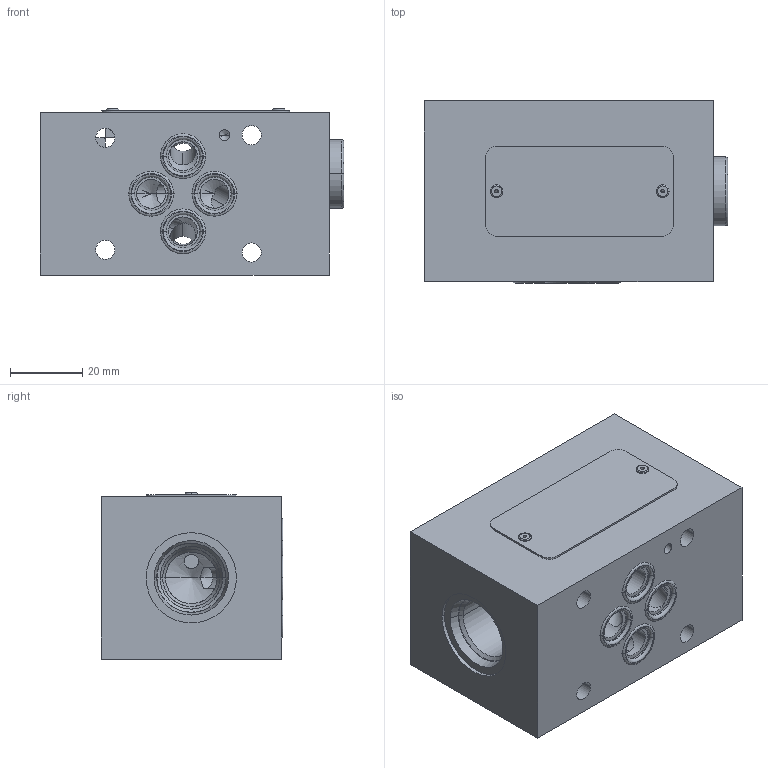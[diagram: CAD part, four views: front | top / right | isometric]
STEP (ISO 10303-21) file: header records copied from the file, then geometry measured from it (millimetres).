
FILE_DESCRIPTION((''),'2;1');
FILE_NAME('1000072627_ASM','2023-10-12T',('l.soukupova'),(''),'PRO/ENGINEER BY PARAMETRIC TECHNOLOGY CORPORATION, 2015440','PRO/ENGINEER BY PARAMETRIC TECHNOLOGY CORPORATION, 2015440','');
FILE_SCHEMA(('AUTOMOTIVE_DESIGN { 1 0 10303 214 1 1 1 1 }'));
Length unit declared in the file: millimetre
Products named in the file (9): 27883901; VSTI_1_4_EDV; ORAR00012_201524_AF12; ORAR00012_201524_AF13; ORAR00012_201524_AF14; ORAR00012_201524_AF15; RD_LABEL_25X52_159703; AF_1932_16485; 1000072627_ASM
Assembly tree (9 placements, depth 2):
  1000072627_ASM
    27883901
    VSTI_1_4_EDV
    ORAR00012_201524_AF12
    ORAR00012_201524_AF13
    ORAR00012_201524_AF14
    ORAR00012_201524_AF15
    RD_LABEL_25X52_159703
    AF_1932_16485  x2
Bounding box: 84 x 50.38 x 46 mm (x, y, z)
Volume: 157659.4 mm3; surface area: 37359.4 mm2
Topology: 9 solids, 14 shells, 267 faces, 776 edges, 614 vertices
Faces by surface type: cylinder 124, plane 52, cone 49, torus 42
Entity records: 14879 total; most frequent: CARTESIAN_POINT 3443, DIRECTION 1606, ORIENTED_EDGE 1178, PRESENTATION_STYLE_ASSIGNMENT 935, STYLED_ITEM 806, CURVE_STYLE 794, AXIS2_PLACEMENT_3D 655, EDGE_CURVE 599
